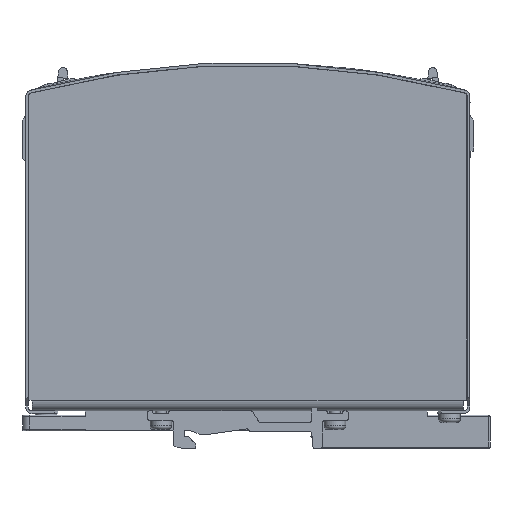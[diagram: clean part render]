
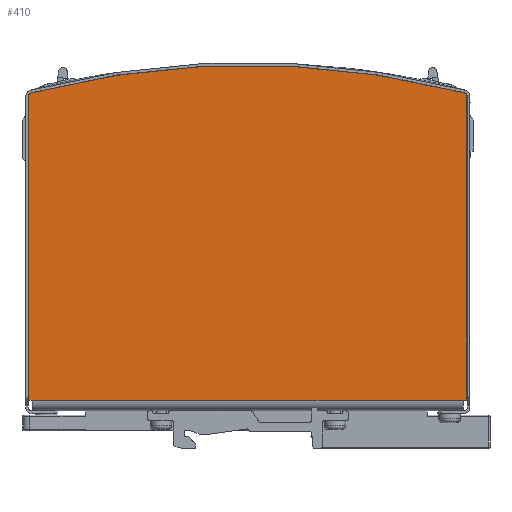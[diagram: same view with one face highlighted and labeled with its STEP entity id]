
A CAD part, front view. The second image highlights one B-rep face of the part: STEP entity #410.
In plain terms, the highlighted planar face has unit normal (0, -1, 0).
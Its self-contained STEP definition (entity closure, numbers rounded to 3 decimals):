
#193=CARTESIAN_POINT('',(60.15,-16.,3.));
#194=VERTEX_POINT('',#193);
#202=CARTESIAN_POINT('',(-60.15,-16.,3.));
#203=VERTEX_POINT('',#202);
#204=CARTESIAN_POINT('',(60.15,-16.0,3.));
#205=DIRECTION('',(-1.0,0.0,0.0));
#206=VECTOR('',#205,120.3);
#207=LINE('',#204,#206);
#208=EDGE_CURVE('',#194,#203,#207,.T.);
#345=CARTESIAN_POINT('',(61.15,-16.0,1.5));
#346=DIRECTION('',(0.0,1.0,0.0));
#347=DIRECTION('',(0.0,0.0,1.0));
#348=AXIS2_PLACEMENT_3D('',#345,#346,#347);
#349=PLANE('',#348);
#350=CARTESIAN_POINT('',(60.402,-16.,88.775));
#351=VERTEX_POINT('',#350);
#352=CARTESIAN_POINT('',(61.15,-16.,87.807));
#353=VERTEX_POINT('',#352);
#354=CARTESIAN_POINT('',(60.15,-16.,87.807));
#355=DIRECTION('',(0.0,1.0,0.0));
#356=DIRECTION('',(0.0,0.0,-1.0));
#357=AXIS2_PLACEMENT_3D('',#354,#355,#356);
#358=CIRCLE('',#357,1.);
#359=EDGE_CURVE('',#351,#353,#358,.T.);
#360=ORIENTED_EDGE('',*,*,#359,.F.);
#361=CARTESIAN_POINT('',(-60.402,-16.,88.775));
#362=VERTEX_POINT('',#361);
#363=CARTESIAN_POINT('',(0.,-16.,-143.5));
#364=DIRECTION('',(0.0,1.0,0.0));
#365=DIRECTION('',(0.0,0.0,-1.0));
#366=AXIS2_PLACEMENT_3D('',#363,#364,#365);
#367=CIRCLE('',#366,240.0);
#368=EDGE_CURVE('',#362,#351,#367,.T.);
#369=ORIENTED_EDGE('',*,*,#368,.F.);
#370=CARTESIAN_POINT('',(-61.15,-16.,87.807));
#371=VERTEX_POINT('',#370);
#372=CARTESIAN_POINT('',(-60.15,-16.,87.807));
#373=DIRECTION('',(0.0,1.0,0.0));
#374=DIRECTION('',(0.0,0.0,-1.0));
#375=AXIS2_PLACEMENT_3D('',#372,#373,#374);
#376=CIRCLE('',#375,1.);
#377=EDGE_CURVE('',#371,#362,#376,.T.);
#378=ORIENTED_EDGE('',*,*,#377,.F.);
#379=CARTESIAN_POINT('',(-61.15,-16.,3.));
#380=VERTEX_POINT('',#379);
#381=CARTESIAN_POINT('',(-61.15,-16.,87.807));
#382=DIRECTION('',(0.0,0.0,-1.0));
#383=VECTOR('',#382,84.807);
#384=LINE('',#381,#383);
#385=EDGE_CURVE('',#371,#380,#384,.T.);
#386=ORIENTED_EDGE('',*,*,#385,.T.);
#387=CARTESIAN_POINT('',(-60.15,-16.,3.));
#388=DIRECTION('',(-1.0,0.0,0.0));
#389=VECTOR('',#388,1.);
#390=LINE('',#387,#389);
#391=EDGE_CURVE('',#203,#380,#390,.T.);
#392=ORIENTED_EDGE('',*,*,#391,.F.);
#393=ORIENTED_EDGE('',*,*,#208,.F.);
#394=CARTESIAN_POINT('',(61.15,-16.,3.));
#395=VERTEX_POINT('',#394);
#396=CARTESIAN_POINT('',(61.15,-16.,3.));
#397=DIRECTION('',(-1.0,0.0,0.0));
#398=VECTOR('',#397,1.0);
#399=LINE('',#396,#398);
#400=EDGE_CURVE('',#395,#194,#399,.T.);
#401=ORIENTED_EDGE('',*,*,#400,.F.);
#402=CARTESIAN_POINT('',(61.15,-16.,3.));
#403=DIRECTION('',(0.0,0.0,1.0));
#404=VECTOR('',#403,84.807);
#405=LINE('',#402,#404);
#406=EDGE_CURVE('',#395,#353,#405,.T.);
#407=ORIENTED_EDGE('',*,*,#406,.T.);
#408=EDGE_LOOP('',(#360,#369,#378,#386,#392,#393,#401,#407));
#409=FACE_OUTER_BOUND('',#408,.T.);
#410=ADVANCED_FACE('',(#409),#349,.F.);
